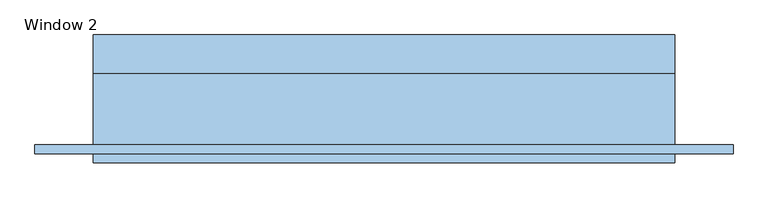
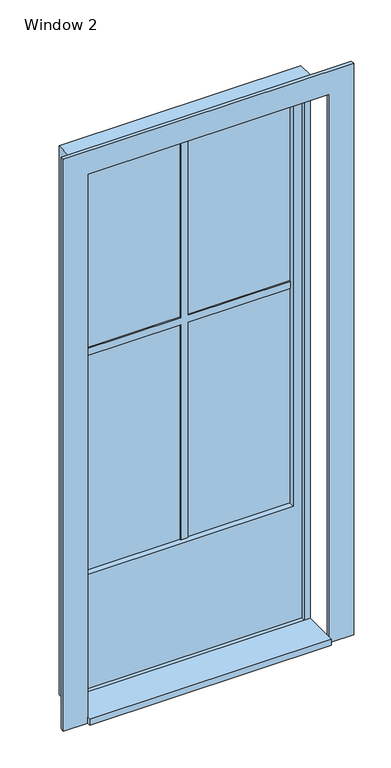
"""IFC4 building model written with IfcOpenShell, lengths in millimetres: window geometry, Window 2 : 1000/2400."""

from ifc_helpers import new_model, si_unit, frame, origin, origin_with_axes, place, context, project, spatial, polyline, outline, extrude, source, transform, mapped, element, save


def window_2_30278724(model_context):
    return source(origin(), model_context, "Body", "SweptSolid", [
        extrude(outline(polyline([(500.0, -26.9623738), (500.0, -180.0), (-500.0, -180.0), (-500.0, -26.9623738), (500.0, -26.9623738)])), origin_with_axes(), (0.0, 0.0, 1.0), 25.0),
        extrude(outline(polyline([(2375.0, -475.0), (25.0, -475.0), (25.0, 475.0), (2375.0, 475.0), (2375.0, -475.0)]), holes=[polyline([(2340.0, -440.0), (2340.0, 440.0), (525.0, 440.0), (525.0, -440.0), (2340.0, -440.0)])]), frame((0.0, -11.4811869, 0.0), z_axis=(0.0, 1.0, 0.0), x_axis=(0.0, 0.0, 1.0)), (0.0, 0.0, 1.0), 50.5),
        extrude(outline(polyline([(0.0, -500.0), (0.0, 500.0), (2400.0, 500.0), (2400.0, -500.0), (0.0, -500.0)]), holes=[polyline([(25.0, -475.0), (2375.0, -475.0), (2375.0, 475.0), (25.0, 475.0), (25.0, -475.0)])]), frame((0.0, -26.9623738, 0.0), z_axis=(0.0, 1.0, 0.0), x_axis=(0.0, 0.0, 1.0)), (0.0, 0.0, 1.0), 65.9811869),
        extrude(outline(polyline([(2400.0, -500.0), (2400.0, 500.0), (0.0, 500.0), (0.0, 600.0), (2500.0, 600.0), (2500.0, -600.0), (0.0, -600.0), (0.0, -500.0), (2400.0, -500.0)])), frame((0.0, -165.0, 0.0), z_axis=(0.0, 1.0, 0.0), x_axis=(0.0, 0.0, 1.0)), (0.0, 0.0, 1.0), 15.0),
        extrude(outline(polyline([(1497.5, 440.0), (1497.5, 15.0), (2340.0, 15.0), (2340.0, -15.0), (1497.5, -15.0), (1497.5, -440.0), (1467.5, -440.0), (1467.5, -15.0), (525.0, -15.0), (525.0, 15.0), (1467.5, 15.0), (1467.5, 440.0), (1497.5, 440.0)])), frame((0.0, 8.5188131, 0.0), z_axis=(0.0, 1.0, 0.0), x_axis=(0.0, 0.0, 1.0)), (0.0, 0.0, 1.0), 20.0),
        extrude(outline(polyline([(440.0, 15.5188131), (440.0, 13.5188131), (-440.0, 13.5188131), (-440.0, 15.5188131), (440.0, 15.5188131)])), frame((0.0, 0.0, 525.0), z_axis=(0.0, 0.0, 1.0), x_axis=(1.0, 0.0, 0.0)), (0.0, 0.0, 1.0), 1815.0),
    ])


if __name__ == "__main__":
    model = new_model("IFC4")
    model_context = context("Model", 3, world=origin())
    ifc_project = project(units=[si_unit("LENGTHUNIT", "METRE", prefix="MILLI")], contexts=[model_context])
    site = spatial("IfcSite", under=ifc_project)
    building = spatial("IfcBuilding", under=site)
    placement = place(None, origin())
    window_2_shape = window_2_30278724(model_context)
    element("IfcWindow", 1, ObjectType="Window 2 : 1000/2400", at=placement, inside=building, context=model_context, shape_type="MappedRepresentation", body=[
        mapped(window_2_shape, transform((0.0, 0.0, 0.0), x_axis=(1.0, 0.0, 0.0), y_axis=(0.0, 1.0, 0.0), z_axis=(0.0, 0.0, 1.0))),
    ])
    save(model, "model.ifc")
